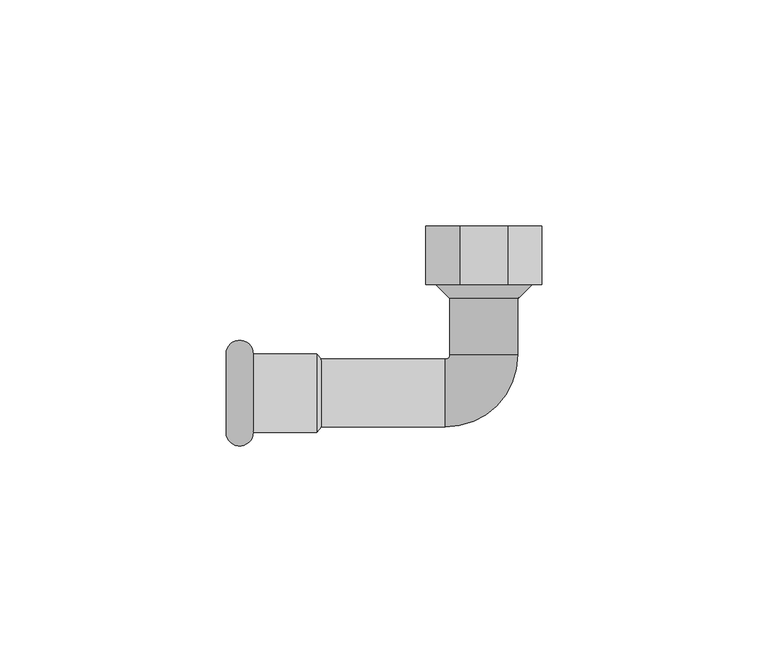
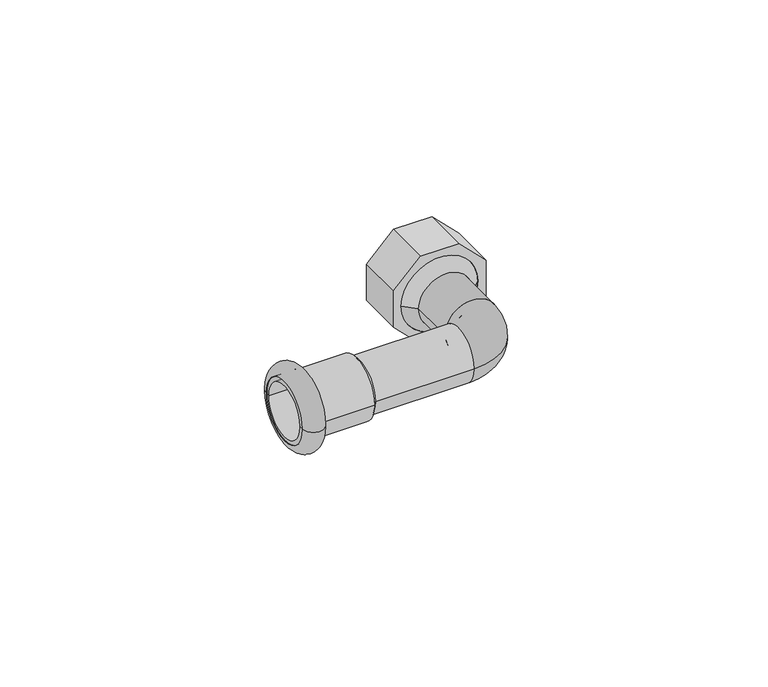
"""IFC4 building model written with IfcOpenShell, lengths in millimetres: pipe fitting geometry."""

from ifc_helpers import new_model, si_unit, point, frame, origin, place, context, project, spatial, polyline, circle_curve, ellipse_curve, trimmed, source, transform, mapped, element, save
from ifc_brep_helpers import plane_surface, cylinder_surface, revolved_surface, advanced_brep


def pipe_fitting_85b2fc61(model_context):
    return source(origin(), model_context, "Body", "AdvancedBrep", [
        advanced_brep(
        [(-57.0, 8.7, 0.0), (-57.0, -8.7, 0.0), (-50.9987073, -8.7, 0.0), (-50.9987073, 8.7, 0.0)],
        [
            (0, 1, circle_curve(frame((-57.0, 0.0, 0.0), z_axis=(-1.0, 0.0, 0.0), x_axis=(0.0, -1.0, 0.0)), 8.7)),
            (1, 2),
            (2, 3, circle_curve(frame((-50.9987073, 0.0, 0.0), z_axis=(1.0, 0.0, 0.0), x_axis=(0.0, -1.0, 0.0)), 8.7)),
            (3, 0),
            (1, 0, circle_curve(frame((-57.0, 0.0, 0.0), z_axis=(-1.0, 0.0, 0.0), x_axis=(0.0, -1.0, 0.0)), 8.7)),
            (3, 2, circle_curve(frame((-50.9987073, 0.0, 0.0), z_axis=(1.0, 0.0, 0.0), x_axis=(0.0, -1.0, 0.0)), 8.7)),
            (2, 1, circle_curve(frame((-53.9993536, -8.7, 0.0), z_axis=(0.0, 0.0, -1.0), x_axis=(-1.0, 0.0, 0.0)), 3.0006464)),
            (0, 3, circle_curve(frame((-53.9993536, 8.7, 0.0), z_axis=(0.0, 0.0, -1.0), x_axis=(-1.0, 0.0, 0.0)), 3.0006464)),
        ],
        [
            revolved_surface(polyline([(-50.9987073, -8.7, 0.0), (-57.0, -8.7, 0.0)]), (-37.0, 0.0, 0.0), (1.0, 0.0, 0.0)),
            revolved_surface(trimmed(ellipse_curve(frame((-53.9993536, -8.7, 0.0), z_axis=(0.0, 0.0, 1.0), x_axis=(-1.0, 0.0, 0.0)), 3.0006464, 3.0006464), [point((-57.0, -8.7, 0.0))], [point((-50.9987073, -8.7, 0.0))], True, "CARTESIAN"), (-37.0, 0.0, 0.0), (1.0, 0.0, 0.0)),
        ],
        [
            (0, [[1, 2, 3, 4]]),
            (0, [[5, -4, 6, -2]]),
            (1, [[-3, 7, -1, 8]]),
            (1, [[-6, -8, -5, -7]]),
        ],
    ),
        advanced_brep(
        [(-57.0, 7.5, 0.0), (-57.0, -7.5, 0.0), (-36.0, -7.5, 0.0), (-36.0, 7.5, 0.0), (-57.0, 8.7, 0.0), (-57.0, -8.7, 0.0), (-37.0, 8.7, 0.0), (-37.0, -8.7, 0.0)],
        [
            (0, 1, circle_curve(frame((-57.0, 0.0, 0.0), z_axis=(-1.0, 0.0, 0.0), x_axis=(0.0, -1.0, 0.0)), 7.5)),
            (1, 2),
            (2, 3, circle_curve(frame((-36.0, 0.0, 0.0), z_axis=(1.0, 0.0, 0.0), x_axis=(0.0, -1.0, 0.0)), 7.5)),
            (3, 0),
            (1, 0, circle_curve(frame((-57.0, 0.0, 0.0), z_axis=(-1.0, 0.0, 0.0), x_axis=(0.0, -1.0, 0.0)), 7.5)),
            (3, 2, circle_curve(frame((-36.0, 0.0, 0.0), z_axis=(1.0, 0.0, 0.0), x_axis=(0.0, -1.0, 0.0)), 7.5)),
            (4, 5, circle_curve(frame((-57.0, 0.0, 0.0), z_axis=(-1.0, 0.0, 0.0), x_axis=(0.0, -1.0, 0.0)), 8.7)),
            (5, 1),
            (0, 4),
            (5, 4, circle_curve(frame((-57.0, 0.0, 0.0), z_axis=(-1.0, 0.0, 0.0), x_axis=(0.0, -1.0, 0.0)), 8.7)),
            (6, 7, circle_curve(frame((-37.0, 0.0, 0.0), z_axis=(-1.0, 0.0, 0.0), x_axis=(0.0, -1.0, 0.0)), 8.7)),
            (7, 5),
            (4, 6),
            (7, 6, circle_curve(frame((-37.0, 0.0, 0.0), z_axis=(-1.0, 0.0, 0.0), x_axis=(0.0, -1.0, 0.0)), 8.7)),
            (2, 7),
            (6, 3),
        ],
        [
            revolved_surface(polyline([(-36.0, -7.5, 0.0), (-57.0, -7.5, 0.0)]), (-37.0, 0.0, 0.0), (1.0, 0.0, 0.0)),
            plane_surface(frame((-57.0, 0.0, 0.0), z_axis=(-1.0, 0.0, 0.0), x_axis=(0.0, -1.0, 0.0))),
            cylinder_surface(frame((-37.0, 0.0, 0.0), z_axis=(1.0, 0.0, 0.0), x_axis=(0.0, -1.0, 0.0)), 8.7),
            revolved_surface(polyline([(-37.0, -8.7, 0.0), (-36.0, -7.5, 0.0)]), (-37.0, 0.0, 0.0), (1.0, 0.0, 0.0)),
        ],
        [
            (0, [[1, 2, 3, 4]]),
            (0, [[5, -4, 6, -2]]),
            (1, [[7, 8, -1, 9]]),
            (1, [[10, -9, -5, -8]]),
            (2, [[11, 12, -7, 13]]),
            (2, [[14, -13, -10, -12]]),
            (3, [[-3, 15, -11, 16]]),
            (3, [[-6, -16, -14, -15]]),
        ],
    ),
        advanced_brep(
        [(-12.8556872, 37.0, 5.325), (-5.325, 37.0, 12.8556872), (5.325, 37.0, 12.8556872), (12.8556872, 37.0, 5.325), (12.8556872, 37.0, -5.325), (5.325, 37.0, -12.8556872), (-5.325, 37.0, -12.8556872), (-12.8556872, 37.0, -5.325), (10.65, 37.0, 0.0), (-10.65, 37.0, 0.0), (-12.8556872, 24.0, 5.325), (-12.8556872, 24.0, -5.325), (-5.325, 24.0, -12.8556872), (5.325, 24.0, -12.8556872), (12.8556872, 24.0, -5.325), (12.8556872, 24.0, 5.325), (5.325, 24.0, 12.8556872), (-5.325, 24.0, 12.8556872), (10.6788231, 24.0, 0.0), (-10.6788231, 24.0, 0.0), (10.65, 24.0, 0.0), (-10.65, 24.0, 0.0), (7.6788231, 24.0, 0.0), (-7.6788231, 24.0, 0.0), (7.6788231, 21.0, 0.0), (-7.6788231, 21.0, 0.0)],
        [
            (0, 1),
            (1, 2),
            (2, 3),
            (3, 4),
            (4, 5),
            (5, 6),
            (6, 7),
            (7, 0),
            (8, 9, circle_curve(frame((0.0, 37.0, 0.0), z_axis=(0.0, -1.0, 0.0), x_axis=(-1.0, 0.0, 0.0)), 10.65)),
            (9, 8, circle_curve(frame((0.0, 37.0, 0.0), z_axis=(0.0, -1.0, 0.0), x_axis=(-1.0, 0.0, 0.0)), 10.65)),
            (10, 11),
            (11, 12),
            (12, 13),
            (13, 14),
            (14, 15),
            (15, 16),
            (16, 17),
            (17, 10),
            (18, 19, circle_curve(frame((0.0, 24.0, 0.0), z_axis=(0.0, 1.0, 0.0), x_axis=(-1.0, 0.0, 0.0)), 10.6788231)),
            (19, 18, circle_curve(frame((0.0, 24.0, 0.0), z_axis=(0.0, 1.0, 0.0), x_axis=(1.0, 0.0, 0.0)), 10.6788231)),
            (8, 20),
            (20, 21, circle_curve(frame((0.0, 24.0, 0.0), z_axis=(0.0, -1.0, 0.0), x_axis=(-1.0, 0.0, 0.0)), 10.65)),
            (21, 9),
            (21, 20, circle_curve(frame((0.0, 24.0, 0.0), z_axis=(0.0, -1.0, 0.0), x_axis=(-1.0, 0.0, 0.0)), 10.65)),
            (0, 10),
            (17, 1),
            (16, 2),
            (15, 3),
            (14, 4),
            (13, 5),
            (12, 6),
            (11, 7),
            (22, 23, circle_curve(frame((0.0, 24.0, 0.0), z_axis=(0.0, -1.0, 0.0), x_axis=(1.0, 0.0, 0.0)), 7.6788231)),
            (23, 22, circle_curve(frame((0.0, 24.0, 0.0), z_axis=(0.0, -1.0, 0.0), x_axis=(-1.0, 0.0, 0.0)), 7.6788231)),
            (24, 25, circle_curve(frame((0.0, 21.0, 0.0), z_axis=(0.0, 1.0, 0.0), x_axis=(-1.0, 0.0, 0.0)), 7.6788231)),
            (25, 19),
            (18, 24),
            (23, 25),
            (24, 22),
            (25, 24, circle_curve(frame((0.0, 21.0, 0.0), z_axis=(0.0, 1.0, 0.0), x_axis=(1.0, 0.0, 0.0)), 7.6788231)),
        ],
        [
            plane_surface(frame((-10.65, 37.0, 0.0), z_axis=(0.0, 1.0, 0.0), x_axis=(0.0, 0.0, -1.0))),
            plane_surface(frame((-10.65, 24.0, 0.0), z_axis=(0.0, -1.0, 0.0), x_axis=(0.0, 0.0, 1.0))),
            revolved_surface(polyline([(-10.65, 24.0, 0.0), (-10.65, 37.0, 0.0)]), (0.0, 24.0, 0.0), (0.0, -1.0, 0.0)),
            plane_surface(frame((-12.8556872, 37.0, 5.325), z_axis=(-0.7071067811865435, 0.0, 0.7071067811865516), x_axis=(0.0, -1.0, 0.0))),
            plane_surface(frame((-5.325, 37.0, 12.8556872), z_axis=(0.0, 0.0, 1.0), x_axis=(0.0, -1.0, 0.0))),
            plane_surface(frame((5.325, 37.0, 12.8556872), z_axis=(0.7071067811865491, 0.0, 0.7071067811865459), x_axis=(0.0, -1.0, 0.0))),
            plane_surface(frame((12.8556872, 37.0, 5.325), z_axis=(1.0, 0.0, 0.0), x_axis=(0.0, -1.0, 0.0))),
            plane_surface(frame((12.8556872, 37.0, -5.325), z_axis=(0.7071067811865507, 0.0, -0.7071067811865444), x_axis=(0.0, -1.0, 0.0))),
            plane_surface(frame((5.325, 37.0, -12.8556872), z_axis=(0.0, 0.0, -1.0), x_axis=(0.0, -1.0, 0.0))),
            plane_surface(frame((-5.325, 37.0, -12.8556872), z_axis=(-0.7071067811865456, 0.0, -0.7071067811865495), x_axis=(0.0, -1.0, 0.0))),
            plane_surface(frame((-12.8556872, 37.0, -5.325), z_axis=(-1.0, 0.0, 0.0), x_axis=(0.0, -1.0, 0.0))),
            plane_surface(frame((0.0, 24.0, 0.0), z_axis=(0.0, 1.0, 0.0), x_axis=(1.0, 0.0, 0.0))),
            revolved_surface(polyline([(-10.6788231, 24.0, 0.0), (-7.6788231, 21.0, 0.0)]), (0.0, 24.0, 0.0), (0.0, -1.0, 0.0)),
            revolved_surface(polyline([(-7.6788231, 21.0, 0.0), (-7.6788231, 24.0, 0.0)]), (0.0, 24.0, 0.0), (0.0, -1.0, 0.0)),
            revolved_surface(polyline([(10.6788231, 24.0, 0.0), (7.6788231, 21.0, 0.0)]), (0.0, 24.0, 0.0), (0.0, -1.0, 0.0)),
            revolved_surface(polyline([(7.6788231, 21.0, 0.0), (7.6788231, 24.0, 0.0)]), (0.0, 24.0, 0.0), (0.0, -1.0, 0.0)),
        ],
        [
            (0, [[1, 2, 3, 4, 5, 6, 7, 8], [9, 10]]),
            (1, [[11, 12, 13, 14, 15, 16, 17, 18], [19, 20]]),
            (2, [[-9, 21, 22, 23]]),
            (2, [[-10, -23, 24, -21]]),
            (3, [[-1, 25, -18, 26]]),
            (4, [[-2, -26, -17, 27]]),
            (5, [[-3, -27, -16, 28]]),
            (6, [[-4, -28, -15, 29]]),
            (7, [[-5, -29, -14, 30]]),
            (8, [[-6, -30, -13, 31]]),
            (9, [[-7, -31, -12, 32]]),
            (10, [[-8, -32, -11, -25]]),
            (11, [[-22, -24], [33, 34]]),
            (12, [[35, 36, -19, 37]]),
            (13, [[-34, 38, -35, 39]]),
            (14, [[-36, 40, -37, -20]]),
            (15, [[-33, -39, -40, -38]]),
        ],
    ),
        advanced_brep(
        [(-7.5, 24.0, 0.0), (7.5, 24.0, 0.0), (-7.5, 8.5, 0.0), (7.5, 8.5, 0.0), (-8.5, -7.5, 0.0), (-8.5, 7.5, 0.0), (-37.0, 7.5, 0.0), (-37.0, -7.5, 0.0)],
        [
            (0, 1, circle_curve(frame((0.0, 24.0, 0.0), z_axis=(0.0, 1.0, 0.0), x_axis=(1.0, 0.0, 0.0)), 7.5)),
            (1, 0, circle_curve(frame((0.0, 24.0, 0.0), z_axis=(0.0, 1.0, 0.0), x_axis=(1.0, 0.0, 0.0)), 7.5)),
            (0, 2),
            (2, 3, circle_curve(frame((0.0, 8.5, 0.0), z_axis=(0.0, 1.0, 0.0), x_axis=(1.0, 0.0, 0.0)), 7.5)),
            (3, 1),
            (3, 2, circle_curve(frame((0.0, 8.5, 0.0), z_axis=(0.0, 1.0, 0.0), x_axis=(1.0, 0.0, 0.0)), 7.5)),
            (4, 3, circle_curve(frame((-8.5, 8.5, 0.0), z_axis=(0.0, 0.0, 1.0), x_axis=(1.0, 0.0, 0.0)), 16.0)),
            (2, 5, circle_curve(frame((-8.5, 8.5, 0.0), z_axis=(0.0, 0.0, -1.0), x_axis=(1.0, 0.0, 0.0)), 1.0)),
            (5, 4, circle_curve(frame((-8.5, 0.0, 0.0), z_axis=(1.0, 0.0, 0.0), x_axis=(0.0, -1.0, 0.0)), 7.5)),
            (4, 5, circle_curve(frame((-8.5, 0.0, 0.0), z_axis=(1.0, 0.0, 0.0), x_axis=(0.0, -1.0, 0.0)), 7.5)),
            (6, 7, circle_curve(frame((-37.0, 0.0, 0.0), z_axis=(-1.0, 0.0, 0.0), x_axis=(0.0, -1.0, 0.0)), 7.5)),
            (7, 6, circle_curve(frame((-37.0, 0.0, 0.0), z_axis=(-1.0, 0.0, 0.0), x_axis=(0.0, -1.0, 0.0)), 7.5)),
            (5, 6),
            (7, 4),
        ],
        [
            plane_surface(frame((0.0, 24.0, 0.0), z_axis=(0.0, 1.0, 0.0), x_axis=(0.0, 0.0, 1.0))),
            cylinder_surface(frame((0.0, 24.0, 0.0), z_axis=(0.0, 1.0, 0.0), x_axis=(1.0, 0.0, 0.0)), 7.5),
            revolved_surface(trimmed(ellipse_curve(frame((0.0, 8.5, 0.0), z_axis=(0.0, 1.0, 0.0), x_axis=(1.0, 0.0, 0.0)), 7.5, 7.5), [point((-7.5, 8.5, 0.0))], [point((7.5, 8.5, 0.0))], True, "CARTESIAN"), (-8.5, 8.5, 0.0), (0.0, 0.0, -1.0)),
            revolved_surface(trimmed(ellipse_curve(frame((0.0, 8.5, 0.0), z_axis=(0.0, 1.0, 0.0), x_axis=(1.0, 0.0, 0.0)), 7.5, 7.5), [point((7.5, 8.5, 0.0))], [point((-7.5, 8.5, 0.0))], True, "CARTESIAN"), (-8.5, 8.5, 0.0), (0.0, 0.0, -1.0)),
            plane_surface(frame((-37.0, 0.0, 0.0), z_axis=(-1.0, 0.0, 0.0), x_axis=(0.0, 0.0, 1.0))),
            cylinder_surface(frame((-8.5, 0.0, 0.0), z_axis=(1.0, 0.0, 0.0), x_axis=(0.0, -1.0, 0.0)), 7.5),
        ],
        [
            (0, [[1, 2]]),
            (1, [[-1, 3, 4, 5]]),
            (1, [[-2, -5, 6, -3]]),
            (2, [[7, -4, 8, 9]]),
            (3, [[-8, -6, -7, 10]]),
            (4, [[11, 12]]),
            (5, [[-9, 13, -12, 14]]),
            (5, [[-10, -14, -11, -13]]),
        ],
    ),
    ])


if __name__ == "__main__":
    model = new_model("IFC4")
    model_context = context("Model", 3, world=origin())
    ifc_project = project(units=[si_unit("LENGTHUNIT", "METRE", prefix="MILLI")], contexts=[model_context])
    site = spatial("IfcSite", under=ifc_project)
    building = spatial("IfcBuilding", under=site)
    placement = place(None, origin())
    pipe_fitting_shape = pipe_fitting_85b2fc61(model_context)
    element("IfcPipeFitting", 1, ObjectType="NLRS_50_PIF_UN_Geberit Mapress Therm overgangsknie 90° met binnendraad_PRO_3208051 : DN12-32-Rp1.1/4\" / d15-35-Rp1.1/4\" - OD", at=placement, inside=building, context=model_context, shape_type="MappedRepresentation", body=[
        mapped(pipe_fitting_shape, transform((0.0, 0.0, 0.0), x_axis=(1.0, 0.0, 0.0), y_axis=(0.0, 1.0, 0.0), z_axis=(0.0, 0.0, 1.0))),
    ])
    save(model, "model.ifc")
